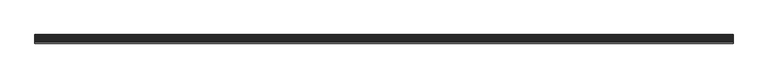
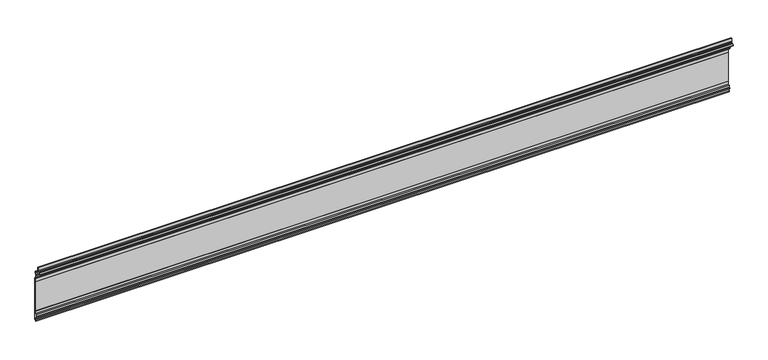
"""IFC4 building model written with IfcOpenShell, lengths in millimetres: plate geometry, FastPlank_P47V-V-Notch-Soffit-Plank : P47V-V-Notch-Soffit-Plank."""

import ifcopenshell
import ifcopenshell.guid

model = None  # the IFC model being written
_history = None  # IfcOwnerHistory: only IFC2X3 demands one
_inside = {}  # id of a spatial element -> (the spatial element, [elements in it])
_under = {}  # id of a project, library or spatial element -> (it, [spatial elements below it])
_declared = {}  # id of a project -> (the project, [libraries it declares])
_typed = {}  # id of a type object -> (the type object, [elements of that type])
_made_of = {}  # id of a material, layer set ... -> (it, [elements and type objects made of it])


def new_model(schema):
    """Start an empty IFC model of exactly this schema.

    Asked for "IFC4X3", IfcOpenShell would pick the latest addendum, in which some entities
    have other attributes; the version numbers below select the first issue.
    IFC2X3 requires an IfcOwnerHistory on every rooted entity: one is made here for all.
    """
    global model, _history
    if schema == "IFC4X3":
        model = ifcopenshell.file(schema_version=(4, 3, 0, 0))
    else:
        model = ifcopenshell.file(schema=schema)
    _inside.clear()
    _under.clear()
    _declared.clear()
    _typed.clear()
    _made_of.clear()
    _history = None
    if model.schema == "IFC2X3":
        org = make("IfcOrganization", Name="unknown")
        user = make(
            "IfcPersonAndOrganization",
            ThePerson=make("IfcPerson", FamilyName="unknown"),
            TheOrganization=org,
        )
        app = make(
            "IfcApplication",
            ApplicationDeveloper=org,
            Version="unknown",
            ApplicationFullName="unknown",
            ApplicationIdentifier="unknown",
        )
        _history = make(
            "IfcOwnerHistory",
            OwningUser=user,
            OwningApplication=app,
            ChangeAction="ADDED",
            CreationDate=0,
        )
    return model


def make(cls, **values):
    """One entity of the class cls with the attributes given. An attribute that is None is left unset."""
    return model.create_entity(
        cls, **{name: value for name, value in values.items() if value is not None}
    )


def rooted(cls, **values):
    """An entity with a GlobalId (a new one), such as an element, a storey or a relation."""
    return make(cls, GlobalId=ifcopenshell.guid.new(), OwnerHistory=_history, **values)


def si_unit(unit_type, name, prefix=None):
    """IfcSIUnit, for example si_unit("LENGTHUNIT", "METRE", prefix="MILLI")."""
    return make("IfcSIUnit", UnitType=unit_type, Prefix=prefix, Name=name)


def assignment(units):
    """IfcUnitAssignment: the units of a project."""
    return None if units is None else make("IfcUnitAssignment", Units=units)


def point(xyz):
    """IfcCartesianPoint."""
    return None if xyz is None else make("IfcCartesianPoint", Coordinates=xyz)


def direction(xyz):
    """IfcDirection."""
    return None if xyz is None else make("IfcDirection", DirectionRatios=xyz)


def frame(location, z_axis=None, x_axis=None):
    """IfcAxis2Placement3D, a coordinate frame: its origin and axes. An axis left out is left unset."""
    return make(
        "IfcAxis2Placement3D",
        Location=point(location),
        Axis=direction(z_axis),
        RefDirection=direction(x_axis),
    )


def origin():
    """The frame at (0, 0, 0) with its axes left unset."""
    return frame((0.0, 0.0, 0.0))


def place(relative_to, where):
    """IfcLocalPlacement: puts the frame where relative to a parent placement (None: the world)."""
    return make(
        "IfcLocalPlacement", PlacementRelTo=relative_to, RelativePlacement=where
    )


def context(
    kind, dimensions, precision=None, world=None, true_north=None, identifier=None
):
    """IfcGeometricRepresentationContext, for example the 3D "Model" context."""
    return make(
        "IfcGeometricRepresentationContext",
        ContextIdentifier=identifier,
        ContextType=kind,
        CoordinateSpaceDimension=dimensions,
        Precision=precision,
        WorldCoordinateSystem=world,
        TrueNorth=true_north,
    )


def project(units=None, contexts=None):
    """IfcProject with its units and contexts."""
    return rooted(
        "IfcProject",
        Name="project",
        RepresentationContexts=contexts,
        UnitsInContext=assignment(units),
    )


def spatial(cls, under=None, at=None, **own):
    """A site, building, storey or space (cls), placed at a placement, below another one or the project."""
    s = rooted(cls, ObjectPlacement=at, **own)
    if under is not None:
        _under.setdefault(under.id(), (under, []))[1].append(s)
    return s


def polyline(points):
    """IfcPolyline through the points."""
    return make("IfcPolyline", Points=[point(p) for p in points])


def outline(outer, holes=None, kind="AREA"):
    """IfcArbitraryClosedProfileDef: a profile drawn as a closed curve; with holes, ...WithVoids."""
    if holes is None:
        return make("IfcArbitraryClosedProfileDef", ProfileType=kind, OuterCurve=outer)
    return make(
        "IfcArbitraryProfileDefWithVoids",
        ProfileType=kind,
        OuterCurve=outer,
        InnerCurves=holes,
    )


def extrude(swept, where, along, depth):
    """IfcExtrudedAreaSolid: the profile swept, set in the frame where, extruded along a direction by depth."""
    return make(
        "IfcExtrudedAreaSolid",
        SweptArea=swept,
        Position=where,
        ExtrudedDirection=direction(along),
        Depth=depth,
    )


def shape(context_of_items, identifier, shape_type, items):
    """IfcShapeRepresentation: the items that make up one representation, for example the "Body"."""
    return make(
        "IfcShapeRepresentation",
        ContextOfItems=context_of_items,
        RepresentationIdentifier=identifier,
        RepresentationType=shape_type,
        Items=items,
    )


def source(mapping_origin, context_of_items, identifier, shape_type, items):
    """IfcRepresentationMap: a shape defined once, which mapped items show again and again."""
    return make(
        "IfcRepresentationMap",
        MappingOrigin=mapping_origin,
        MappedRepresentation=shape(context_of_items, identifier, shape_type, items),
    )


def transform(
    local_origin,
    x_axis=None,
    y_axis=None,
    z_axis=None,
    scale=None,
    scale2=None,
    scale3=None,
    uniform=True,
):
    """IfcCartesianTransformationOperator3D, or its non-uniform kind. x_axis, y_axis, z_axis: its Axis1, 2, 3."""
    if uniform:
        return make(
            "IfcCartesianTransformationOperator3D",
            Axis1=direction(x_axis),
            Axis2=direction(y_axis),
            LocalOrigin=point(local_origin),
            Scale=scale,
            Axis3=direction(z_axis),
        )
    return make(
        "IfcCartesianTransformationOperator3DnonUniform",
        Axis1=direction(x_axis),
        Axis2=direction(y_axis),
        LocalOrigin=point(local_origin),
        Scale=scale,
        Axis3=direction(z_axis),
        Scale2=scale2,
        Scale3=scale3,
    )


def mapped(mapping_source, mapping_target):
    """IfcMappedItem: shows the shape of a source again, moved by a transform."""
    return make(
        "IfcMappedItem", MappingSource=mapping_source, MappingTarget=mapping_target
    )


def made_of(thing, what):
    """Note that an element or type object is made of a material, layer set ...; save() writes the relation."""
    if what is not None:
        _made_of.setdefault(what.id(), (what, []))[1].append(thing)
    return thing


def element(
    cls,
    number,
    at=None,
    inside=None,
    cuts=None,
    type_object=None,
    material=None,
    context=None,
    identifier="Body",
    shape_type=None,
    held_by="IfcProductDefinitionShape",
    body=None,
    shapes=None,
    **own,
):
    """One element of the class cls, such as IfcWall. Its Tag is "e" and its number.

    at: its placement. inside: the storey or other place that contains it. cuts: it is an
    opening in that element (IfcRelVoidsElement). A single representation is given by context,
    identifier, shape_type and body (its items); several are given by shapes. held_by: the class
    of the entity that holds the representations. save() writes the other relations.
    """
    e = rooted(cls, Tag="e%d" % number, ObjectPlacement=at, **own)
    if body is not None:
        shapes = [shape(context, identifier, shape_type, body)]
    if shapes is not None:
        e.Representation = make(held_by, Representations=shapes)
    if inside is not None:
        _inside.setdefault(inside.id(), (inside, []))[1].append(e)
    if cuts is not None:
        rooted(
            "IfcRelVoidsElement", RelatingBuildingElement=cuts, RelatedOpeningElement=e
        )
    if type_object is not None:
        _typed.setdefault(type_object.id(), (type_object, []))[1].append(e)
    return made_of(e, material)


def aggregate(whole, parts):
    """IfcRelAggregates: a whole, such as a stair, and the parts it consists of."""
    return rooted("IfcRelAggregates", RelatingObject=whole, RelatedObjects=parts)


def save(model, path):
    """Write the relations noted so far, then the file.

    IfcRelAggregates (storeys below a building ...), IfcRelContainedInSpatialStructure (elements
    in a storey), IfcRelDefinesByType, IfcRelAssociatesMaterial and IfcRelDeclares: one each for
    every whole, place, type object, material and project.
    """
    for whole, parts in _under.values():
        aggregate(whole, parts)
    for where, things in _inside.values():
        rooted(
            "IfcRelContainedInSpatialStructure",
            RelatedElements=things,
            RelatingStructure=where,
        )
    for kind, things in _typed.values():
        rooted("IfcRelDefinesByType", RelatedObjects=things, RelatingType=kind)
    for what, things in _made_of.values():
        rooted("IfcRelAssociatesMaterial", RelatedObjects=things, RelatingMaterial=what)
    for by, libraries in _declared.values():
        rooted("IfcRelDeclares", RelatingContext=by, RelatedDefinitions=libraries)
    model.write(path)


def plate_b531e358(model_context):
    return source(origin(), model_context, "Body", "SweptSolid", [
        extrude(outline(polyline([(8.1392275, 2.3957023), (3.9892358, 0.0), (3.9892358, 1.7319938), (6.6392305, 3.2617795), (6.6392305, 13.9827581), (4.7892342, 13.9827581), (4.7892342, 9.9691576), (2.5809265, 7.7608499), (2.5809265, 9.8794005), (3.2892372, 10.5877112), (3.2892372, 15.4863039), (6.8392301, 15.4863039), (6.8392301, 21.8363039), (8.1392275, 21.8363039), (8.1392275, 2.3957023)])), frame((-762.0000002, 0.0, 0.0), z_axis=(1.0, 0.0, 0.0), x_axis=(0.0, 1.0, 0.0)), (0.0, 0.0, 1.0), 1524.0000003),
        extrude(outline(polyline([(2.4892388, 100.4649994), (2.4892388, 104.5739676), (-0.0110544, 104.5739676), (-4.2015031, 113.9609184), (-4.2015031, 116.7763922), (-5.6541682, 117.6150887), (-8.0416346, 117.6150887), (-10.7353671, 114.9213563), (-10.7353671, 117.0394467), (-8.601943, 118.9150861), (-5.9532063, 118.9150861), (-5.9532063, 121.2437723), (-4.7032087, 122.3427309), (-4.7032087, 129.1909904), (-3.2032117, 129.1909904), (-3.2032117, 120.8578751), (-4.4532093, 120.8578751), (-4.4532093, 118.3909783), (-1.9121554, 118.3909783), (-0.4169473, 117.2227937), (-1.0161739, 116.4558186), (-2.7015061, 116.4558186), (-2.7015061, 114.2522203), (0.9727419, 106.0486482), (2.4892388, 106.0486482), (2.4892388, 109.2361164), (5.1392335, 111.8861111), (5.1392335, 114.5726601), (6.6392305, 114.5726601), (6.6392305, 111.264792), (3.9892358, 108.6147973), (3.9892358, 101.1000834), (8.1392275, 98.7040846), (8.1392275, 90.0478827), (6.8392301, 90.0478827), (6.8392301, 97.9535307), (2.4892388, 100.4649994)])), frame((-762.0000002, 0.0, 0.0), z_axis=(1.0, 0.0, 0.0), x_axis=(0.0, 1.0, 0.0)), (0.0, 0.0, 1.0), 1524.0000003),
        extrude(outline(polyline([(-762.0000002, 6.8392301), (-762.0000002, 8.1392275), (762.0000002, 8.1392275), (762.0000002, 6.8392301), (-762.0000002, 6.8392301)])), frame((0.0, 0.0, 21.8363039), z_axis=(0.0, 0.0, 1.0), x_axis=(1.0, 0.0, 0.0)), (0.0, 0.0, 1.0), 68.2115788),
    ])


if __name__ == "__main__":
    model = new_model("IFC4")
    model_context = context("Model", 3, world=origin())
    ifc_project = project(units=[si_unit("LENGTHUNIT", "METRE", prefix="MILLI")], contexts=[model_context])
    site = spatial("IfcSite", under=ifc_project)
    building = spatial("IfcBuilding", under=site)
    placement = place(None, origin())
    plate_shape = plate_b531e358(model_context)
    element("IfcPlate", 1, ObjectType="FastPlank_P47V-V-Notch-Soffit-Plank : P47V-V-Notch-Soffit-Plank", at=placement, inside=building, context=model_context, shape_type="MappedRepresentation", body=[
        mapped(plate_shape, transform((0.0, 0.0, 0.0), x_axis=(1.0, 0.0, 0.0), y_axis=(0.0, 1.0, 0.0), z_axis=(0.0, 0.0, 1.0))),
    ])
    save(model, "model.ifc")
